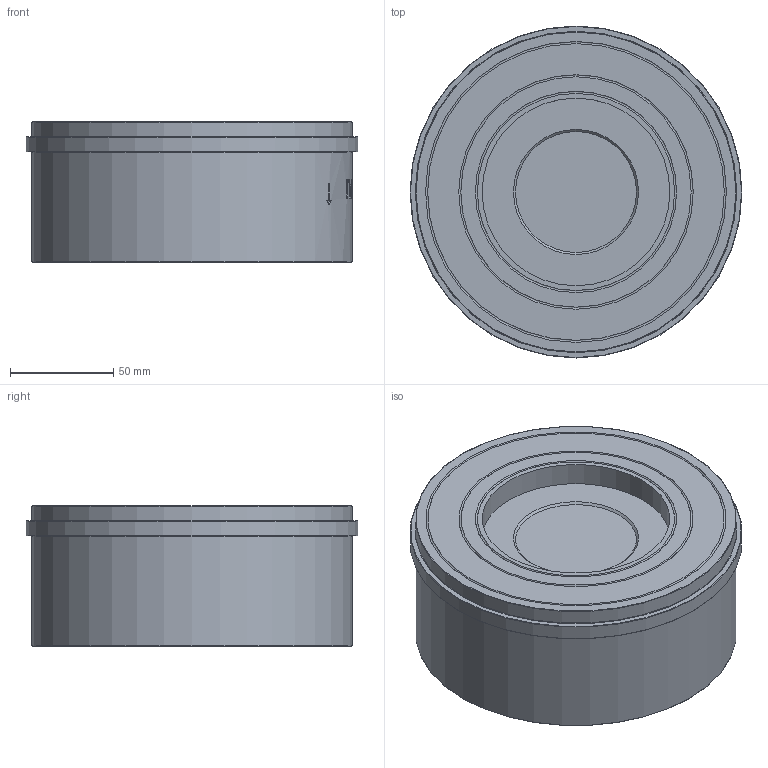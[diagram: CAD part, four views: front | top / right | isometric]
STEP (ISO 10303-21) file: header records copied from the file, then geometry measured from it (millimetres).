
FILE_DESCRIPTION(('STEP AP214'), '1');
FILE_NAME('VCS3232-Fb 孰囡囗 钺疣蝽 DN.ru 捏100 畜40', '', ('UNSPECIFIED'), ('UNSPECIFIED'), 'C3D Converter', 'C3D Toolkit', '');
FILE_SCHEMA(('AUTOMOTIVE_DESIGN { 1 0 10303 214 3 1 1}'));
Length unit declared in the file: millimetre
Products named in the file (1): VCS3232-Fb
Bounding box: 161 x 161 x 68 mm (x, y, z)
Volume: 523366.1 mm3; surface area: 166876.2 mm2
Topology: 2 solids, 2 shells, 143 faces, 348 edges, 228 vertices
Faces by surface type: plane 70, cylinder 30, extrusion 30, torus 11, bspline 1, cone 1
Full cylindrical faces by diameter (mm): 30.333 x1, 30.533 x1, 91 x1, 93.58 x1, 109.2 x2, 126 x1, 129.98 x1, 130 x1, 143.407 x1, 155.54 x2, 161 x1
Entity records: 9202 total; most frequent: CARTESIAN_POINT 5201, ORIENTED_EDGE 644, DIRECTION 606, EDGE_CURVE 322, VERTEX_POINT 228, AXIS2_PLACEMENT_3D 225, EDGE_LOOP 198, VECTOR 156
